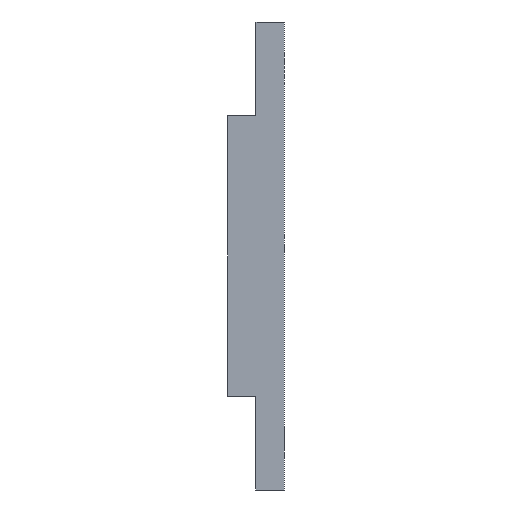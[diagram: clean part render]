
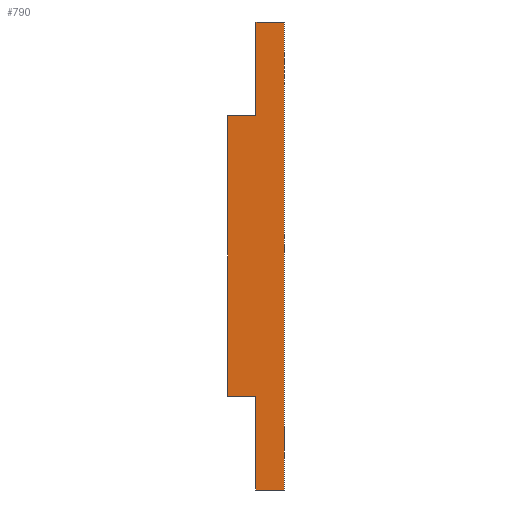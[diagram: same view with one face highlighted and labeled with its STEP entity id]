
A CAD part, left-side view. The second image highlights one B-rep face of the part: STEP entity #790.
In plain terms, the highlighted planar face has unit normal (-1, 0, 0).
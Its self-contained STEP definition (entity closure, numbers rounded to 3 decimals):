
#18 = DIRECTION ( 'NONE',  ( 0., 0., 1. ) ) ;
#67 = CARTESIAN_POINT ( 'NONE',  ( 0., 3., 15. ) ) ;
#77 = VERTEX_POINT ( 'NONE', #1000 ) ;
#79 = CARTESIAN_POINT ( 'NONE',  ( 0., 3., -25. ) ) ;
#107 = DIRECTION ( 'NONE',  ( 0., 0., -1. ) ) ;
#109 = DIRECTION ( 'NONE',  ( 1., 0., 0. ) ) ;
#110 = VECTOR ( 'NONE', #18, 1000. ) ;
#116 = VERTEX_POINT ( 'NONE', #856 ) ;
#134 = VERTEX_POINT ( 'NONE', #452 ) ;
#150 = EDGE_CURVE ( 'NONE', #116, #479, #645, .T. ) ;
#152 = EDGE_CURVE ( 'NONE', #1050, #479, #466, .T. ) ;
#157 = VECTOR ( 'NONE', #674, 1000. ) ;
#162 = VERTEX_POINT ( 'NONE', #520 ) ;
#183 = DIRECTION ( 'NONE',  ( 0., 0., 1. ) ) ;
#191 = LINE ( 'NONE', #1106, #617 ) ;
#192 = VERTEX_POINT ( 'NONE', #344 ) ;
#213 = EDGE_CURVE ( 'NONE', #192, #77, #574, .T. ) ;
#219 = AXIS2_PLACEMENT_3D ( 'NONE', #249, #109, #107 ) ;
#225 = CARTESIAN_POINT ( 'NONE',  ( 0., 6., -15. ) ) ;
#249 = CARTESIAN_POINT ( 'NONE',  ( 0., 3., -25. ) ) ;
#279 = PLANE ( 'NONE',  #219 ) ;
#330 = LINE ( 'NONE', #931, #755 ) ;
#344 = CARTESIAN_POINT ( 'NONE',  ( 0., 6., -15. ) ) ;
#353 = VECTOR ( 'NONE', #183, 1000. ) ;
#380 = EDGE_CURVE ( 'NONE', #1062, #1050, #560, .T. ) ;
#389 = ORIENTED_EDGE ( 'NONE', *, *, #895, .T. ) ;
#397 = VECTOR ( 'NONE', #540, 1000. ) ;
#417 = ORIENTED_EDGE ( 'NONE', *, *, #557, .T. ) ;
#452 = CARTESIAN_POINT ( 'NONE',  ( 0., 3., -25. ) ) ;
#464 = ORIENTED_EDGE ( 'NONE', *, *, #380, .F. ) ;
#466 = LINE ( 'NONE', #602, #397 ) ;
#473 = ORIENTED_EDGE ( 'NONE', *, *, #150, .T. ) ;
#479 = VERTEX_POINT ( 'NONE', #693 ) ;
#491 = FACE_OUTER_BOUND ( 'NONE', #1105, .T. ) ;
#520 = CARTESIAN_POINT ( 'NONE',  ( 0., 3., -15. ) ) ;
#540 = DIRECTION ( 'NONE',  ( 0., -1., 0. ) ) ;
#557 = EDGE_CURVE ( 'NONE', #192, #162, #1054, .T. ) ;
#560 = LINE ( 'NONE', #79, #110 ) ;
#573 = CARTESIAN_POINT ( 'NONE',  ( 0., 0., -25. ) ) ;
#574 = LINE ( 'NONE', #225, #353 ) ;
#602 = CARTESIAN_POINT ( 'NONE',  ( 0., 3., 25. ) ) ;
#617 = VECTOR ( 'NONE', #701, 1000. ) ;
#638 = LINE ( 'NONE', #664, #157 ) ;
#645 = LINE ( 'NONE', #573, #861 ) ;
#653 = CARTESIAN_POINT ( 'NONE',  ( 0., 3., 25. ) ) ;
#664 = CARTESIAN_POINT ( 'NONE',  ( 0., 3., -25. ) ) ;
#674 = DIRECTION ( 'NONE',  ( 0., -1., 0. ) ) ;
#692 = DIRECTION ( 'NONE',  ( 0., 0., 1. ) ) ;
#693 = CARTESIAN_POINT ( 'NONE',  ( 0., 0., 25. ) ) ;
#701 = DIRECTION ( 'NONE',  ( 0., 0., 1. ) ) ;
#755 = VECTOR ( 'NONE', #957, 1000. ) ;
#790 = ADVANCED_FACE ( 'NONE', ( #491 ), #279, .F. ) ;
#799 = DIRECTION ( 'NONE',  ( 0., -1., 0. ) ) ;
#846 = ORIENTED_EDGE ( 'NONE', *, *, #981, .F. ) ;
#856 = CARTESIAN_POINT ( 'NONE',  ( 0., 0., -25. ) ) ;
#861 = VECTOR ( 'NONE', #692, 1000. ) ;
#864 = EDGE_CURVE ( 'NONE', #134, #162, #191, .T. ) ;
#893 = ORIENTED_EDGE ( 'NONE', *, *, #864, .F. ) ;
#895 = EDGE_CURVE ( 'NONE', #134, #116, #638, .T. ) ;
#911 = ORIENTED_EDGE ( 'NONE', *, *, #213, .F. ) ;
#931 = CARTESIAN_POINT ( 'NONE',  ( 0., 6., 15. ) ) ;
#957 = DIRECTION ( 'NONE',  ( 0., -1., 0. ) ) ;
#962 = ORIENTED_EDGE ( 'NONE', *, *, #152, .F. ) ;
#974 = CARTESIAN_POINT ( 'NONE',  ( 0., 6., -15. ) ) ;
#981 = EDGE_CURVE ( 'NONE', #77, #1062, #330, .T. ) ;
#1000 = CARTESIAN_POINT ( 'NONE',  ( 0., 6., 15. ) ) ;
#1027 = VECTOR ( 'NONE', #799, 1000. ) ;
#1050 = VERTEX_POINT ( 'NONE', #653 ) ;
#1054 = LINE ( 'NONE', #974, #1027 ) ;
#1062 = VERTEX_POINT ( 'NONE', #67 ) ;
#1105 = EDGE_LOOP ( 'NONE', ( #473, #962, #464, #846, #911, #417, #893, #389 ) ) ;
#1106 = CARTESIAN_POINT ( 'NONE',  ( 0., 3., -25. ) ) ;
